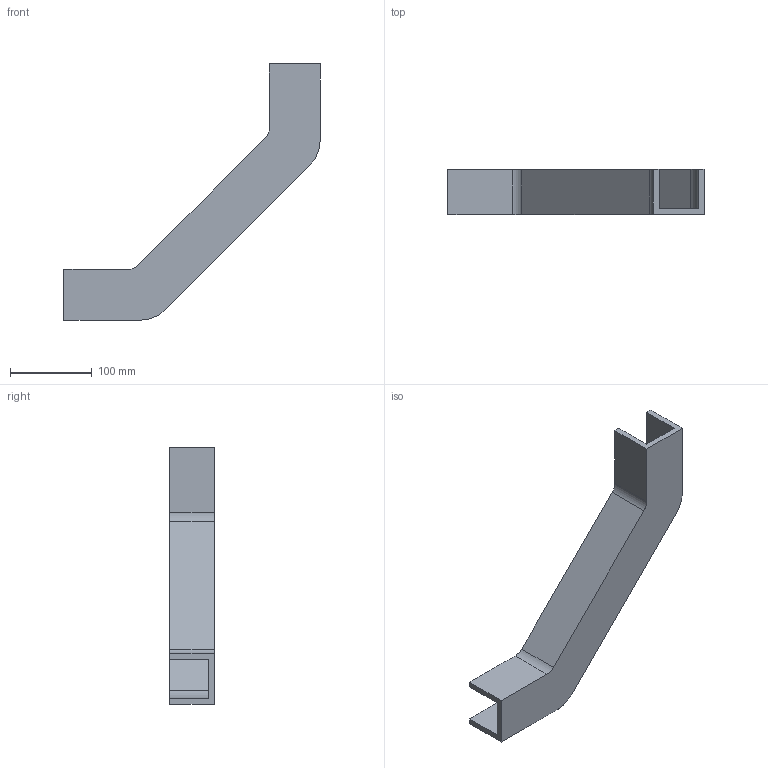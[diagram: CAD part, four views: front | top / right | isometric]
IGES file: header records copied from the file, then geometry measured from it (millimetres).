
Start section: SolidWorks IGES file using analytic representation for surfaces
Global section: file name: C:\Users\Stagiaire\Desktop\Rendu 3D\AGRAFE\3220_AGRAFE_90\3220_AGRAFE_90.IGS; native system: SolidWorks 2014; preprocessor: SolidWorks 2014; author: Stagiaire; date: 141007.160440; units: millimetre
Bounding box: 313.5 x 55 x 313.5 mm (x, y, z)
Surface area: 152442.4 mm2 (no closed solid volume)
Topology: 0 solids, 0 shells, 26 faces, 192 edges, 192 vertices
Faces by surface type: bspline 18, revolution 8
